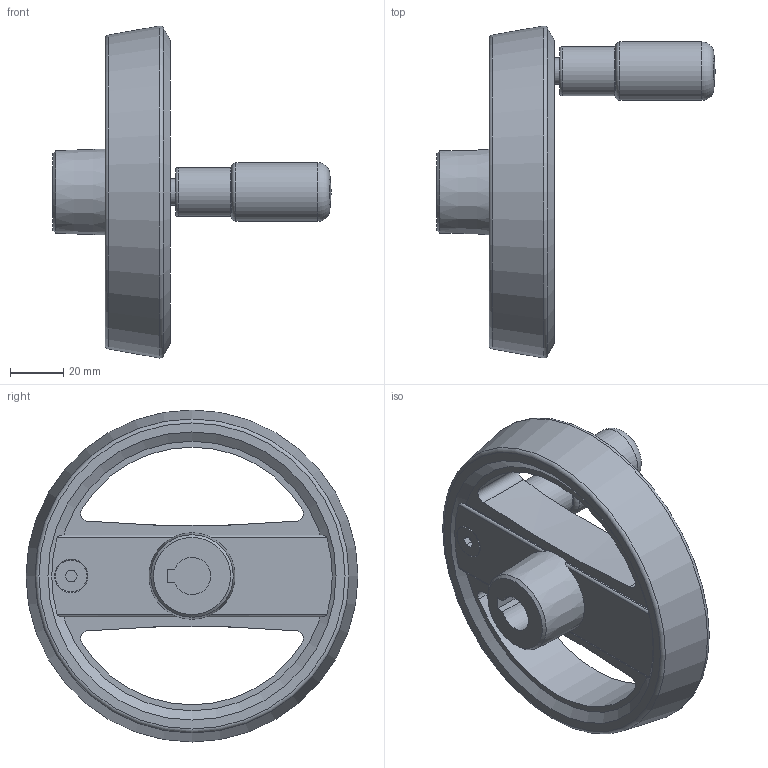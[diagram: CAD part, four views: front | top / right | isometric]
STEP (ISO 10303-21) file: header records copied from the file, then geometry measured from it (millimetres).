
FILE_DESCRIPTION( ( 'STEP AP203' ), '1' );
FILE_NAME( 'C:/Temp/Ganter_Step_05_03_2020/data/1_3/gn_924_3/gn_924_3_b/Handwheel with retractable handle GN 924.3-125-B14-R-SR (activated).stp', '2020-03-05T10:40:47', ( 'License CC BY-ND 4.0' ), ( 'CADENAS' ), ' ', 'PARTsolutions', ' ' );
FILE_SCHEMA( ( 'CONFIG_CONTROL_DESIGN' ) );
Length unit declared in the file: millimetre
Products named in the file (3): Handwheel with retractable handle GN 924.3-125-B14-R-SR (activated); _Umleggriff-Handrad GN 924.3-125-B14-R-SR-1; _Umleggriff-Handrad GN 924.3-125-B14-R-SR-2
Assembly tree (2 placements, depth 2):
  Handwheel with retractable handle GN 924.3-125-B14-R-SR (activated)
    _Umleggriff-Handrad GN 924.3-125-B14-R-SR-1
    _Umleggriff-Handrad GN 924.3-125-B14-R-SR-2
Bounding box: 104.8 x 125 x 125 mm (x, y, z)
Volume: 165155.1 mm3; surface area: 51068.7 mm2
Topology: 2 solids, 2 shells, 103 faces, 261 edges, 167 vertices
Faces by surface type: plane 48, cylinder 35, cone 11, torus 7, sphere 2
Full cylindrical faces by diameter (mm): 4 x4, 10 x1, 12 x1, 18.5 x1, 22 x1, 25 x1, 26.6 x1
Entity records: 3393 total; most frequent: CARTESIAN_POINT 939, DIRECTION 484, ORIENTED_EDGE 448, EDGE_CURVE 224, AXIS2_PLACEMENT_3D 194, VERTEX_POINT 162, EDGE_LOOP 151, FACE_OUTER_BOUND 120
